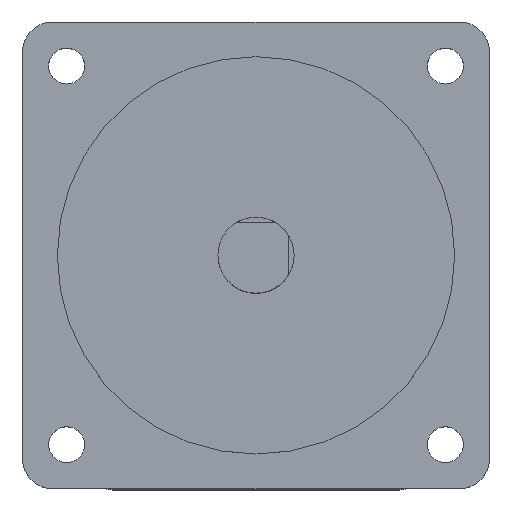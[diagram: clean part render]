
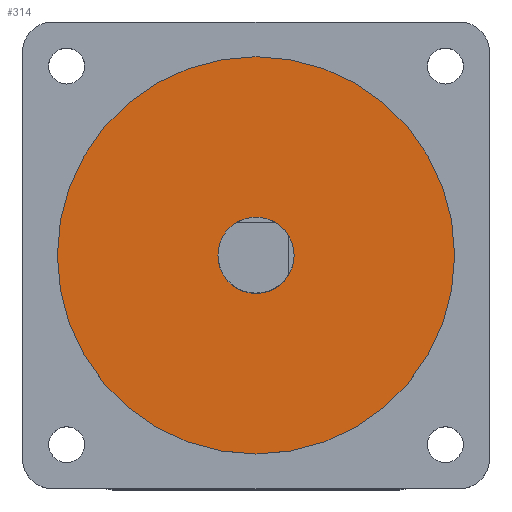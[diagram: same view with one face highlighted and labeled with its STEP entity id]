
A CAD part, top view. The second image highlights one B-rep face of the part: STEP entity #314.
In plain terms, the highlighted planar face has unit normal (0, 0, 1).
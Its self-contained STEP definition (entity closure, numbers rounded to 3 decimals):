
#314 = ADVANCED_FACE ( 'NONE', ( #3460, #917 ), #2392, .T. ) ;
#315 = ORIENTED_EDGE ( 'NONE', *, *, #2359, .T. ) ;
#446 = CARTESIAN_POINT ( 'NONE',  ( 36.513, 0., 2. ) ) ;
#682 = CARTESIAN_POINT ( 'NONE',  ( 0., 0., 2. ) ) ;
#700 = ORIENTED_EDGE ( 'NONE', *, *, #1185, .T. ) ;
#762 = CIRCLE ( 'NONE', #3072, 7. ) ;
#841 = DIRECTION ( 'NONE',  ( 0., 0., -1. ) ) ;
#902 = AXIS2_PLACEMENT_3D ( 'NONE', #2687, #841, #2990 ) ;
#917 = FACE_BOUND ( 'NONE', #2584, .T. ) ;
#933 = AXIS2_PLACEMENT_3D ( 'NONE', #1428, #3570, #1727 ) ;
#1003 = DIRECTION ( 'NONE',  ( 1., 0., 0. ) ) ;
#1067 = CARTESIAN_POINT ( 'NONE',  ( 0., 0., 2. ) ) ;
#1185 = EDGE_CURVE ( 'NONE', #2811, #2064, #762, .T. ) ;
#1267 = ORIENTED_EDGE ( 'NONE', *, *, #2498, .T. ) ;
#1373 = DIRECTION ( 'NONE',  ( 1., 0., 0. ) ) ;
#1402 = CIRCLE ( 'NONE', #902, 7. ) ;
#1428 = CARTESIAN_POINT ( 'NONE',  ( 0., 0., 2. ) ) ;
#1445 = DIRECTION ( 'NONE',  ( 1., 0., 0. ) ) ;
#1727 = DIRECTION ( 'NONE',  ( 1., 0., 0. ) ) ;
#1735 = CARTESIAN_POINT ( 'NONE',  ( 0., 0., 2. ) ) ;
#2031 = ORIENTED_EDGE ( 'NONE', *, *, #3192, .T. ) ;
#2054 = DIRECTION ( 'NONE',  ( 0., 0., 1. ) ) ;
#2064 = VERTEX_POINT ( 'NONE', #3632 ) ;
#2218 = EDGE_LOOP ( 'NONE', ( #2031, #1267 ) ) ;
#2246 = CIRCLE ( 'NONE', #933, 36.513 ) ;
#2359 = EDGE_CURVE ( 'NONE', #2064, #2811, #1402, .T. ) ;
#2392 = PLANE ( 'NONE',  #3380 ) ;
#2498 = EDGE_CURVE ( 'NONE', #3517, #2612, #3509, .T. ) ;
#2584 = EDGE_LOOP ( 'NONE', ( #700, #315 ) ) ;
#2612 = VERTEX_POINT ( 'NONE', #2996 ) ;
#2687 = CARTESIAN_POINT ( 'NONE',  ( 0., 0., 2. ) ) ;
#2811 = VERTEX_POINT ( 'NONE', #3129 ) ;
#2846 = DIRECTION ( 'NONE',  ( 0., 0., 1. ) ) ;
#2990 = DIRECTION ( 'NONE',  ( 1., 0., 0. ) ) ;
#2996 = CARTESIAN_POINT ( 'NONE',  ( -36.513, 0., 2. ) ) ;
#3072 = AXIS2_PLACEMENT_3D ( 'NONE', #1067, #3227, #1373 ) ;
#3129 = CARTESIAN_POINT ( 'NONE',  ( -7., 0., 2. ) ) ;
#3192 = EDGE_CURVE ( 'NONE', #2612, #3517, #2246, .T. ) ;
#3227 = DIRECTION ( 'NONE',  ( 0., 0., -1. ) ) ;
#3380 = AXIS2_PLACEMENT_3D ( 'NONE', #1735, #2054, #1445 ) ;
#3460 = FACE_OUTER_BOUND ( 'NONE', #2218, .T. ) ;
#3509 = CIRCLE ( 'NONE', #3973, 36.513 ) ;
#3517 = VERTEX_POINT ( 'NONE', #446 ) ;
#3570 = DIRECTION ( 'NONE',  ( 0., 0., 1. ) ) ;
#3632 = CARTESIAN_POINT ( 'NONE',  ( 7., 0., 2. ) ) ;
#3973 = AXIS2_PLACEMENT_3D ( 'NONE', #682, #2846, #1003 ) ;
